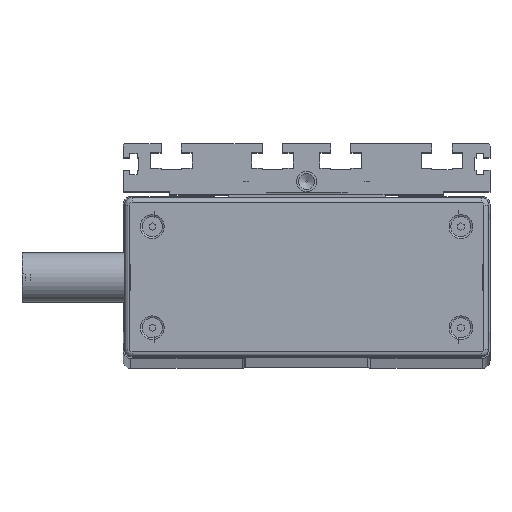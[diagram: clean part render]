
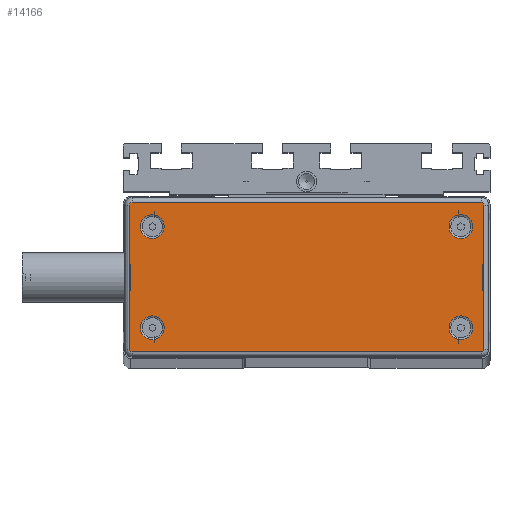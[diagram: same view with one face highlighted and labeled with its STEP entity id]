
A CAD part, top view. The second image highlights one B-rep face of the part: STEP entity #14166.
In plain terms, the highlighted planar face has unit normal (0, 0, 1) as drawn and (-1, 0, 0) by its records, which use the part's own axes.
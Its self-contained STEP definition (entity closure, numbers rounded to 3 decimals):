
#255=CIRCLE('',#14835,1.);
#256=CIRCLE('',#14836,1.);
#257=CIRCLE('',#14837,1.);
#258=CIRCLE('',#14838,1.);
#259=CIRCLE('',#14839,4.7);
#260=CIRCLE('',#14840,4.7);
#261=CIRCLE('',#14841,4.7);
#262=CIRCLE('',#14842,4.7);
#639=ORIENTED_EDGE('',*,*,#3311,.T.);
#640=ORIENTED_EDGE('',*,*,#3312,.T.);
#641=ORIENTED_EDGE('',*,*,#3313,.T.);
#642=ORIENTED_EDGE('',*,*,#3314,.T.);
#643=ORIENTED_EDGE('',*,*,#3315,.T.);
#644=ORIENTED_EDGE('',*,*,#3316,.T.);
#645=ORIENTED_EDGE('',*,*,#3317,.T.);
#646=ORIENTED_EDGE('',*,*,#3318,.T.);
#647=ORIENTED_EDGE('',*,*,#3319,.T.);
#648=ORIENTED_EDGE('',*,*,#3320,.T.);
#649=ORIENTED_EDGE('',*,*,#3321,.T.);
#650=ORIENTED_EDGE('',*,*,#3322,.T.);
#3311=EDGE_CURVE('',#4647,#4648,#5604,.F.);
#3312=EDGE_CURVE('',#4648,#4649,#255,.F.);
#3313=EDGE_CURVE('',#4649,#4650,#5605,.F.);
#3314=EDGE_CURVE('',#4650,#4651,#256,.F.);
#3315=EDGE_CURVE('',#4651,#4652,#5606,.F.);
#3316=EDGE_CURVE('',#4652,#4653,#257,.F.);
#3317=EDGE_CURVE('',#4653,#4654,#5607,.F.);
#3318=EDGE_CURVE('',#4654,#4647,#258,.F.);
#3319=EDGE_CURVE('',#4655,#4655,#259,.T.);
#3320=EDGE_CURVE('',#4656,#4656,#260,.T.);
#3321=EDGE_CURVE('',#4657,#4657,#261,.T.);
#3322=EDGE_CURVE('',#4658,#4658,#262,.T.);
#4647=VERTEX_POINT('',#18813);
#4648=VERTEX_POINT('',#18814);
#4649=VERTEX_POINT('',#18816);
#4650=VERTEX_POINT('',#18818);
#4651=VERTEX_POINT('',#18820);
#4652=VERTEX_POINT('',#18822);
#4653=VERTEX_POINT('',#18824);
#4654=VERTEX_POINT('',#18826);
#4655=VERTEX_POINT('',#18829);
#4656=VERTEX_POINT('',#18831);
#4657=VERTEX_POINT('',#18833);
#4658=VERTEX_POINT('',#18835);
#5604=LINE('',#18812,#6620);
#5605=LINE('',#18817,#6621);
#5606=LINE('',#18821,#6622);
#5607=LINE('',#18825,#6623);
#6620=VECTOR('',#15869,1000.);
#6621=VECTOR('',#15872,1000.);
#6622=VECTOR('',#15875,1000.);
#6623=VECTOR('',#15878,1000.);
#7625=EDGE_LOOP('',(#639,#640,#641,#642,#643,#644,#645,#646));
#7626=EDGE_LOOP('',(#647));
#7627=EDGE_LOOP('',(#648));
#7628=EDGE_LOOP('',(#649));
#7629=EDGE_LOOP('',(#650));
#8497=FACE_BOUND('',#7625,.T.);
#8498=FACE_BOUND('',#7626,.T.);
#8499=FACE_BOUND('',#7627,.T.);
#8500=FACE_BOUND('',#7628,.T.);
#8501=FACE_BOUND('',#7629,.T.);
#9358=PLANE('',#14834);
#14166=ADVANCED_FACE('',(#8497,#8498,#8499,#8500,#8501),#9358,.F.);
#14834=AXIS2_PLACEMENT_3D('',#18811,#15867,#15868);
#14835=AXIS2_PLACEMENT_3D('',#18815,#15870,#15871);
#14836=AXIS2_PLACEMENT_3D('',#18819,#15873,#15874);
#14837=AXIS2_PLACEMENT_3D('',#18823,#15876,#15877);
#14838=AXIS2_PLACEMENT_3D('',#18827,#15879,#15880);
#14839=AXIS2_PLACEMENT_3D('',#18828,#15881,#15882);
#14840=AXIS2_PLACEMENT_3D('',#18830,#15883,#15884);
#14841=AXIS2_PLACEMENT_3D('',#18832,#15885,#15886);
#14842=AXIS2_PLACEMENT_3D('',#18834,#15887,#15888);
#15867=DIRECTION('',(1.,0.,0.));
#15868=DIRECTION('',(0.,0.,-1.));
#15869=DIRECTION('',(0.,0.,1.));
#15870=DIRECTION('',(1.,0.,0.));
#15871=DIRECTION('',(0.,0.,-1.));
#15872=DIRECTION('',(0.,1.,0.));
#15873=DIRECTION('',(1.,0.,0.));
#15874=DIRECTION('',(0.,0.,-1.));
#15875=DIRECTION('',(0.,0.,-1.));
#15876=DIRECTION('',(1.,0.,0.));
#15877=DIRECTION('',(0.,0.,-1.));
#15878=DIRECTION('',(0.,-1.,0.));
#15879=DIRECTION('',(1.,0.,0.));
#15880=DIRECTION('',(0.,0.,-1.));
#15881=DIRECTION('',(1.,0.,0.));
#15882=DIRECTION('',(0.,0.,-1.));
#15883=DIRECTION('',(1.,0.,0.));
#15884=DIRECTION('',(0.,0.,-1.));
#15885=DIRECTION('',(1.,0.,0.));
#15886=DIRECTION('',(0.,0.,-1.));
#15887=DIRECTION('',(1.,0.,0.));
#15888=DIRECTION('',(0.,0.,-1.));
#18811=CARTESIAN_POINT('',(-34.5,-28.5,69.));
#18812=CARTESIAN_POINT('',(-34.5,29.5,69.));
#18813=CARTESIAN_POINT('',(-34.5,29.5,69.));
#18814=CARTESIAN_POINT('',(-34.5,29.5,-69.));
#18815=CARTESIAN_POINT('',(-34.5,28.5,-69.));
#18816=CARTESIAN_POINT('',(-34.5,28.5,-70.));
#18817=CARTESIAN_POINT('',(-34.5,-28.5,-70.));
#18818=CARTESIAN_POINT('',(-34.5,-28.5,-70.));
#18819=CARTESIAN_POINT('',(-34.5,-28.5,-69.));
#18820=CARTESIAN_POINT('',(-34.5,-29.5,-69.));
#18821=CARTESIAN_POINT('',(-34.5,-29.5,69.));
#18822=CARTESIAN_POINT('',(-34.5,-29.5,69.));
#18823=CARTESIAN_POINT('',(-34.5,-28.5,69.));
#18824=CARTESIAN_POINT('',(-34.5,-28.5,70.));
#18825=CARTESIAN_POINT('',(-34.5,-28.5,70.));
#18826=CARTESIAN_POINT('',(-34.5,28.5,70.));
#18827=CARTESIAN_POINT('',(-34.5,28.5,69.));
#18828=CARTESIAN_POINT('',(-34.5,-20.,61.));
#18829=CARTESIAN_POINT('',(-34.5,-20.,56.3));
#18830=CARTESIAN_POINT('',(-34.5,20.,61.));
#18831=CARTESIAN_POINT('',(-34.5,20.,56.3));
#18832=CARTESIAN_POINT('',(-34.5,20.,-61.));
#18833=CARTESIAN_POINT('',(-34.5,20.,-65.7));
#18834=CARTESIAN_POINT('',(-34.5,-20.,-61.));
#18835=CARTESIAN_POINT('',(-34.5,-20.,-65.7));
